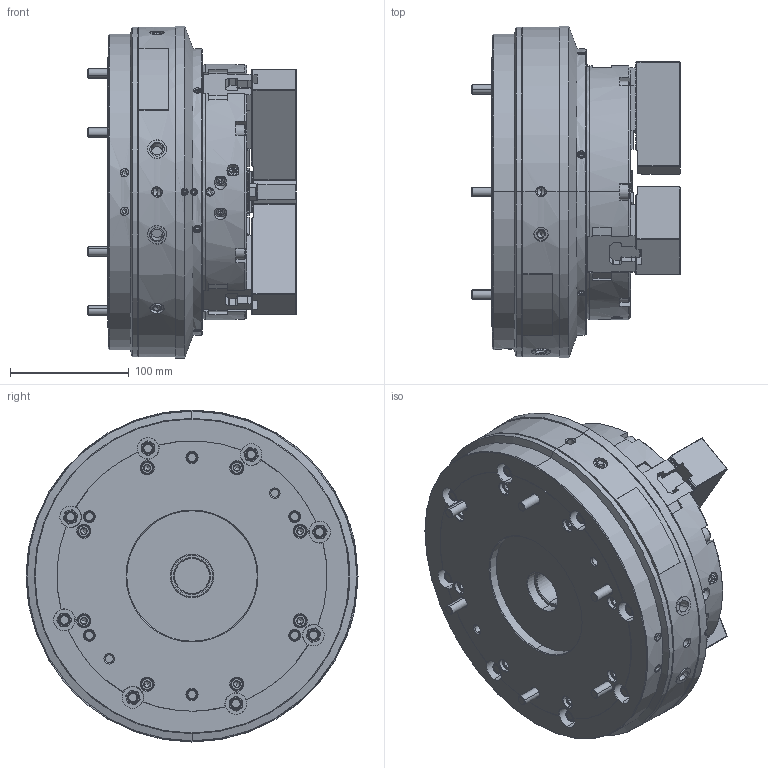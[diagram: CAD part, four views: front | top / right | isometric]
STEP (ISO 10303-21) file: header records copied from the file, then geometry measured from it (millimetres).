
FILE_DESCRIPTION (( 'STEP AP214' ), '1' );
FILE_NAME ('DEV-NRC08-HUL.STEP', '2024-10-03T05:04:46', ( '' ), ( '' ), 'SwSTEP 2.0', 'SolidWorks 2022', '' );
FILE_SCHEMA (( 'AUTOMOTIVE_DESIGN' ));
Length unit declared in the file: millimetre
Products named in the file (9): Copy of 61P304291^DEV-NRC08-クミタテ; Copy of 0030108125^DEV-NRC08-クミタテ; Copy of 0030112035^DEV-NRC08-クミタテ; Copy of 0263002400^DEV-NRC08-クミタテ_円筒用; Part1^DEV-NRC08-クミタテ; DEV-NRC08-HUL; Copy of 0693000002^DEV-NRC08-クミタテ; Copy of 61P400744^DEV-NRC08-クミタテ; Copy of 61P413477^DEV-NRC08-クミタテ
Assembly tree (23 placements, depth 2):
  DEV-NRC08-HUL
    Copy of 61P304291^DEV-NRC08-クミタテ  x3
    Copy of 61P400744^DEV-NRC08-クミタテ  x3
    Copy of 61P413477^DEV-NRC08-クミタテ
    Copy of 0030108125^DEV-NRC08-クミタテ  x6
    Copy of 0030112035^DEV-NRC08-クミタテ  x6
    Copy of 0263002400^DEV-NRC08-クミタテ_円筒用
    Copy of 0693000002^DEV-NRC08-クミタテ  x2
    Part1^DEV-NRC08-クミタテ
Bounding box: 176 x 280 x 280 mm (x, y, z)
Volume: 6067298.9 mm3; surface area: 434300.5 mm2
Topology: 23 solids, 69 shells, 5314 faces, 14516 edges, 9433 vertices
Faces by surface type: plane 3197, cylinder 1189, cone 754, bspline 140, torus 26, sphere 8
Entity records: 133242 total; most frequent: CARTESIAN_POINT 37109, ORIENTED_EDGE 21004, DIRECTION 18085, EDGE_CURVE 10502, VECTOR 7173, LINE 7173, VERTEX_POINT 6843, AXIS2_PLACEMENT_3D 5456
